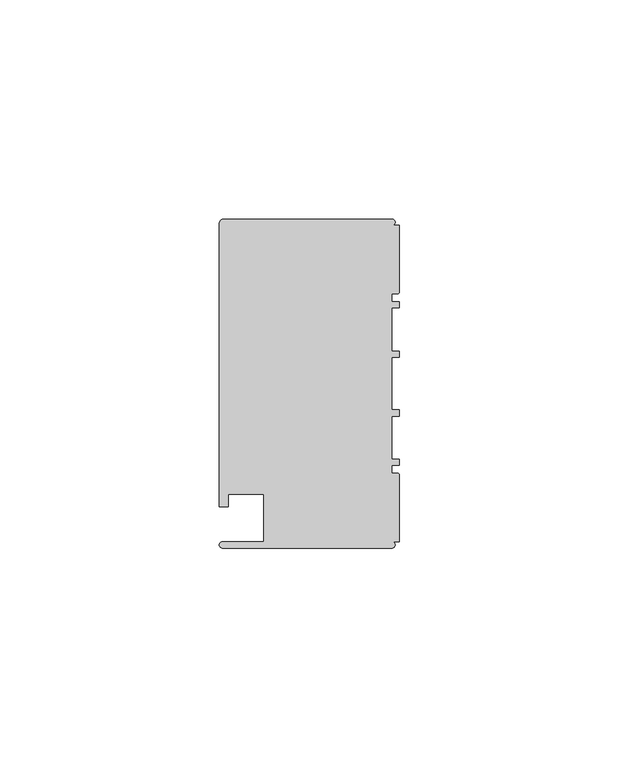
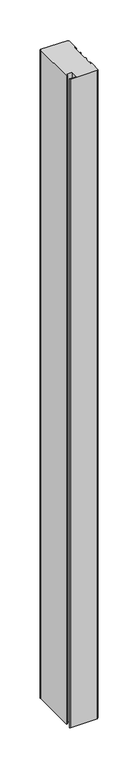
"""IFC4 building model written with IfcOpenShell, lengths in millimetres: member geometry, Прямоугольный импост : 1-AMG-1-Профиль 40Х75 Верх П."""

from ifc_helpers import new_model, si_unit, point, frame, frame_2d, origin, place, context, project, spatial, polyline, circle_curve, trimmed, segment, composite_curve, outline, extrude, source, transform, mapped, element, save


def member_cf11dbb0(model_context):
    return source(origin(), model_context, "Body", "SweptSolid", [
        extrude(outline(composite_curve([segment(polyline([(-1.7, -37.5), (-40.4, -37.5)]), True, "CONTINUOUS"), segment(trimmed(circle_curve(frame_2d((-40.4, -36.8)), 0.7), [point((-40.4, -37.5))], [point((-40.4, -36.1))], False, "CARTESIAN"), True, "CONTINUOUS"), segment(polyline([(-40.4, -36.1), (-31.0, -36.1), (-31.0, -25.25), (-39.0, -25.25), (-39.0, -28.1), (-41.1, -28.1), (-41.1, 36.1)]), True, "CONTINUOUS"), segment(trimmed(circle_curve(frame_2d((-39.7541527, 36.3020763)), 1.3609334), [point((-41.1, 36.1))], [point((-40.4, 37.5))], False, "CARTESIAN"), True, "CONTINUOUS"), segment(polyline([(-40.4, 37.5), (-1.7, 37.5)]), True, "CONTINUOUS"), segment(trimmed(circle_curve(frame_2d((-1.7, 36.8)), 0.7), [point((-1.7, 37.5))], [point((-1.7, 36.1))], False, "CARTESIAN"), True, "CONTINUOUS"), segment(polyline([(-1.7, 36.1), (0.0, 36.1), (0.0, 20.95)]), True, "CONTINUOUS"), segment(trimmed(circle_curve(frame_2d((-0.5, 20.95)), 0.5), [point((0.0, 20.95))], [point((-0.5, 20.45))], False, "CARTESIAN"), True, "CONTINUOUS"), segment(polyline([(-0.5, 20.45), (-1.8, 20.45), (-1.8, 18.65), (0.0, 18.65), (0.0, 17.25), (-1.8, 17.25), (-1.8, 7.4), (0.0, 7.4), (0.0, 6.0), (-1.8, 6.0), (-1.8, -6.0), (0.0, -6.0), (0.0, -7.4), (-1.8, -7.4), (-1.8, -17.25), (0.0, -17.25), (0.0, -18.65), (-1.8, -18.65), (-1.8, -20.45), (-0.5, -20.45)]), True, "CONTINUOUS"), segment(trimmed(circle_curve(frame_2d((-0.5, -20.95)), 0.5), [point((-0.5, -20.45))], [point((0.0, -20.95))], False, "CARTESIAN"), True, "CONTINUOUS"), segment(polyline([(0.0, -20.95), (0.0, -36.1), (-1.7, -36.1)]), True, "CONTINUOUS"), segment(trimmed(circle_curve(frame_2d((-1.7, -36.8)), 0.7), [point((-1.7, -36.1))], [point((-1.7, -37.5))], False, "CARTESIAN"), True, "CONTINUOUS")], self_intersect=False)), frame((0.0, 0.0, -985.3748476), z_axis=(0.0, 0.0, 1.0), x_axis=(1.0, 0.0, 0.0)), (0.0, 0.0, 1.0), 985.3748476),
    ])


if __name__ == "__main__":
    model = new_model("IFC4")
    model_context = context("Model", 3, world=origin())
    ifc_project = project(units=[si_unit("LENGTHUNIT", "METRE", prefix="MILLI")], contexts=[model_context])
    site = spatial("IfcSite", under=ifc_project)
    building = spatial("IfcBuilding", under=site)
    placement = place(None, origin())
    member_shape = member_cf11dbb0(model_context)
    element("IfcMember", 1, ObjectType="Прямоугольный импост : 1-AMG-1-Профиль 40Х75 Верх П", at=placement, inside=building, context=model_context, shape_type="MappedRepresentation", body=[
        mapped(member_shape, transform((0.0, 0.0, 0.0), x_axis=(1.0, 0.0, 0.0), y_axis=(0.0, 1.0, 0.0), z_axis=(0.0, 0.0, 1.0))),
    ])
    save(model, "model.ifc")
